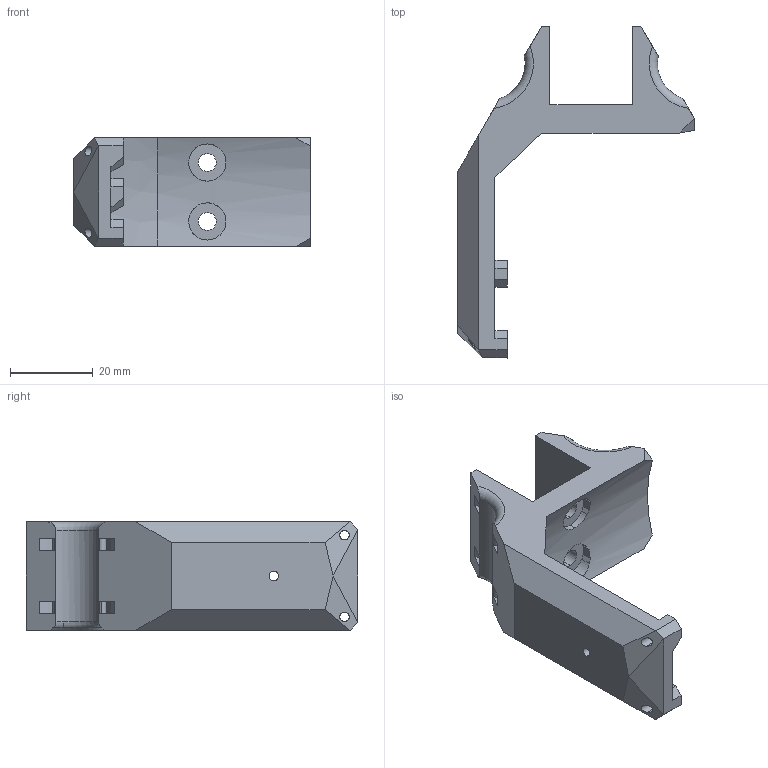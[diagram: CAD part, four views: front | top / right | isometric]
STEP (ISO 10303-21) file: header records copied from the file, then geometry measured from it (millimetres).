
FILE_DESCRIPTION (( 'STEP AP214' ), '1' );
FILE_NAME ('vostok_v9.0b3_assembly_id15176_x_b_犧鴈蕻樻鍱.STEP', '2026-03-03T14:13:29', ( '' ), ( '' ), 'SwSTEP 2.0', 'SolidWorks 2025', '' );
FILE_SCHEMA (( 'AUTOMOTIVE_DESIGN' ));
Length unit declared in the file: millimetre
Products named in the file (1): vostok_v9.0b3_assembly_id15176_x_b_ДлинныйМод
Bounding box: 57.2 x 80.25 x 26.25 mm (x, y, z)
Volume: 24914.4 mm3; surface area: 10515.8 mm2
Topology: 1 solids, 1 shells, 226 faces, 620 edges, 409 vertices
Faces by surface type: plane 124, cylinder 47, bspline 41, cone 8, torus 6
Entity records: 7890 total; most frequent: CARTESIAN_POINT 2341, ORIENTED_EDGE 1240, DIRECTION 983, EDGE_CURVE 620, VERTEX_POINT 409, LINE 405, VECTOR 405, AXIS2_PLACEMENT_3D 289
